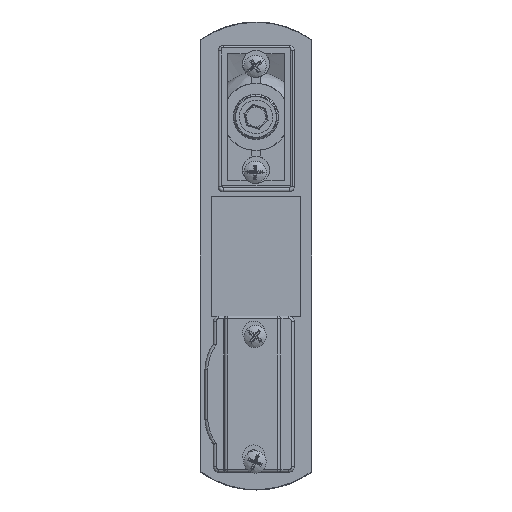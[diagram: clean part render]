
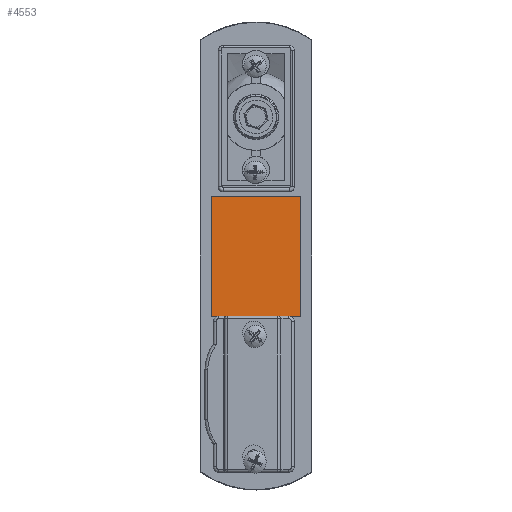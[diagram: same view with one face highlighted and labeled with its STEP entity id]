
A CAD part, front view. The second image highlights one B-rep face of the part: STEP entity #4553.
In plain terms, the highlighted planar face has unit normal (0, -1, 0) as drawn and (1, 0, 0) by its records, which use the part's own axes.
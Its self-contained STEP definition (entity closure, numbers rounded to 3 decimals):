
#4553 = ADVANCED_FACE ( 'NONE', ( #23360 ), #23359, .F. ) ;
#4554 = EDGE_LOOP ( 'NONE', ( #4556, #4563, #4569, #4574 ) ) ;
#4556 = ORIENTED_EDGE ( 'NONE', *, *, #4559, .T. ) ;
#4559 = EDGE_CURVE ( 'NONE', #4560, #4561, #23347, .T. ) ;
#4560 = VERTEX_POINT ( 'NONE', #23342 ) ;
#4561 = VERTEX_POINT ( 'NONE', #23341 ) ;
#4563 = ORIENTED_EDGE ( 'NONE', *, *, #4565, .F. ) ;
#4565 = EDGE_CURVE ( 'NONE', #4566, #4561, #23340, .T. ) ;
#4566 = VERTEX_POINT ( 'NONE', #23336 ) ;
#4569 = ORIENTED_EDGE ( 'NONE', *, *, #4571, .T. ) ;
#4571 = EDGE_CURVE ( 'NONE', #4566, #4573, #23388, .T. ) ;
#4573 = VERTEX_POINT ( 'NONE', #23384 ) ;
#4574 = ORIENTED_EDGE ( 'NONE', *, *, #4600, .F. ) ;
#4600 = EDGE_CURVE ( 'NONE', #4560, #4573, #23403, .T. ) ;
#23336 = CARTESIAN_POINT ( 'NONE',  ( 112.001, 231.907, 277.776 ) ) ;
#23337 = DIRECTION ( 'NONE',  ( 0., -1., 0. ) ) ;
#23338 = VECTOR ( 'NONE', #23337, 1000. ) ;
#23339 = CARTESIAN_POINT ( 'NONE',  ( 112.001, 199.907, 277.776 ) ) ;
#23340 = LINE ( 'NONE', #23339, #23338 ) ;
#23341 = CARTESIAN_POINT ( 'NONE',  ( 112.001, 199.907, 277.776 ) ) ;
#23342 = CARTESIAN_POINT ( 'NONE',  ( 112.001, 199.907, 320.776 ) ) ;
#23343 = DIRECTION ( 'NONE',  ( 0., 0., -1. ) ) ;
#23344 = VECTOR ( 'NONE', #23343, 1000. ) ;
#23345 = CARTESIAN_POINT ( 'NONE',  ( 112.001, 199.907, 276.526 ) ) ;
#23347 = LINE ( 'NONE', #23345, #23344 ) ;
#23353 = DIRECTION ( 'NONE',  ( 0., -1., 0. ) ) ;
#23354 = DIRECTION ( 'NONE',  ( -1., 0., 0. ) ) ;
#23356 = AXIS2_PLACEMENT_3D ( 'NONE', #23358, #23354, #23353 ) ;
#23358 = CARTESIAN_POINT ( 'NONE',  ( 112.001, 231.907, 322.026 ) ) ;
#23359 = PLANE ( 'NONE',  #23356 ) ;
#23360 = FACE_OUTER_BOUND ( 'NONE', #4554, .T. ) ;
#23384 = CARTESIAN_POINT ( 'NONE',  ( 112.001, 231.907, 320.776 ) ) ;
#23385 = DIRECTION ( 'NONE',  ( 0., 0., 1. ) ) ;
#23386 = VECTOR ( 'NONE', #23385, 1000. ) ;
#23387 = CARTESIAN_POINT ( 'NONE',  ( 112.001, 231.907, 322.026 ) ) ;
#23388 = LINE ( 'NONE', #23387, #23386 ) ;
#23400 = DIRECTION ( 'NONE',  ( 0., 1., 0. ) ) ;
#23401 = VECTOR ( 'NONE', #23400, 1000. ) ;
#23402 = CARTESIAN_POINT ( 'NONE',  ( 112.001, 199.907, 320.776 ) ) ;
#23403 = LINE ( 'NONE', #23402, #23401 ) ;
